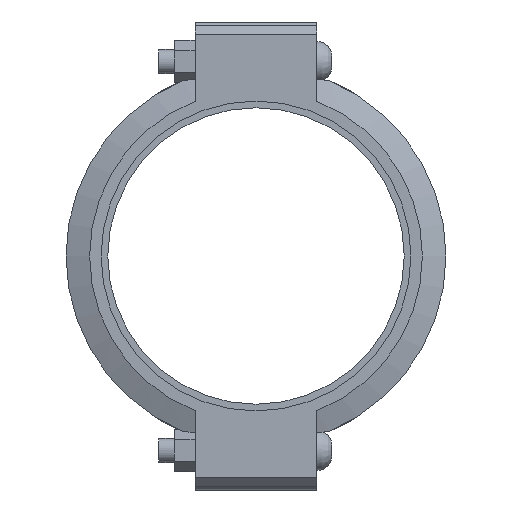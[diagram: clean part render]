
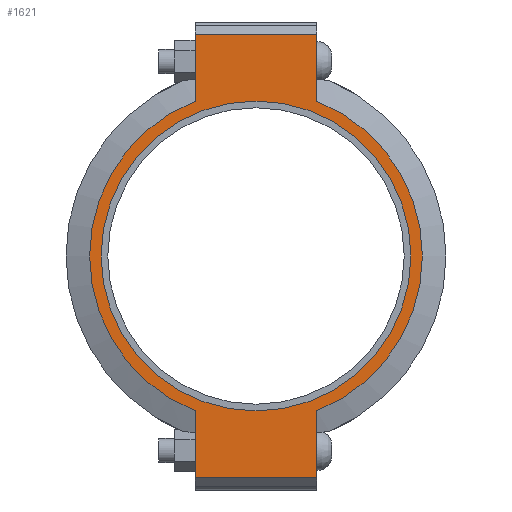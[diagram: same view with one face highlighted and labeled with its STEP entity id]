
A CAD part, left-side view. The second image highlights one B-rep face of the part: STEP entity #1621.
In plain terms, the highlighted planar face has unit normal (-1, 0, 0) as drawn and (0, 0, 1) by its records, which use the part's own axes.
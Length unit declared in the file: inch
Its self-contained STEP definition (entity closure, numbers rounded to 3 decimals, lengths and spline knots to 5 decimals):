
#192=LINE('',#2801,#281);
#203=LINE('',#2852,#292);
#209=LINE('',#2878,#298);
#211=LINE('',#2881,#300);
#212=LINE('',#2886,#301);
#213=LINE('',#2887,#302);
#281=VECTOR('',#2281,0.3937);
#292=VECTOR('',#2312,0.3937);
#298=VECTOR('',#2330,0.3937);
#300=VECTOR('',#2334,0.3937);
#301=VECTOR('',#2339,0.3937);
#302=VECTOR('',#2340,0.3937);
#364=FACE_BOUND('',#541,.T.);
#432=FACE_OUTER_BOUND('',#540,.T.);
#540=EDGE_LOOP('',(#1316,#1317,#1318,#1319,#1320,#1321,#1322,#1323));
#541=EDGE_LOOP('',(#1324));
#623=CIRCLE('',#1849,6.375);
#647=CIRCLE('',#1901,6.84375);
#648=CIRCLE('',#1902,6.84375);
#719=VERTEX_POINT('',#2627);
#760=VERTEX_POINT('',#2798);
#761=VERTEX_POINT('',#2800);
#778=VERTEX_POINT('',#2847);
#779=VERTEX_POINT('',#2851);
#786=VERTEX_POINT('',#2873);
#787=VERTEX_POINT('',#2877);
#788=VERTEX_POINT('',#2883);
#789=VERTEX_POINT('',#2885);
#883=EDGE_CURVE('',#719,#719,#623,.T.);
#940=EDGE_CURVE('',#761,#760,#192,.T.);
#961=EDGE_CURVE('',#779,#778,#203,.T.);
#972=EDGE_CURVE('',#787,#786,#209,.T.);
#974=EDGE_CURVE('',#787,#760,#211,.T.);
#975=EDGE_CURVE('',#786,#788,#647,.T.);
#976=EDGE_CURVE('',#788,#789,#212,.T.);
#977=EDGE_CURVE('',#779,#789,#213,.T.);
#978=EDGE_CURVE('',#778,#761,#648,.T.);
#1316=ORIENTED_EDGE('',*,*,#974,.F.);
#1317=ORIENTED_EDGE('',*,*,#972,.T.);
#1318=ORIENTED_EDGE('',*,*,#975,.T.);
#1319=ORIENTED_EDGE('',*,*,#976,.T.);
#1320=ORIENTED_EDGE('',*,*,#977,.F.);
#1321=ORIENTED_EDGE('',*,*,#961,.T.);
#1322=ORIENTED_EDGE('',*,*,#978,.T.);
#1323=ORIENTED_EDGE('',*,*,#940,.T.);
#1324=ORIENTED_EDGE('',*,*,#883,.T.);
#1461=PLANE('',#1900);
#1621=ADVANCED_FACE('',(#432,#364),#1461,.T.);
#1849=AXIS2_PLACEMENT_3D('',#2629,#2171,#2172);
#1900=AXIS2_PLACEMENT_3D('',#2882,#2335,#2336);
#1901=AXIS2_PLACEMENT_3D('',#2884,#2337,#2338);
#1902=AXIS2_PLACEMENT_3D('',#2888,#2341,#2342);
#2171=DIRECTION('center_axis',(0.,0.,-1.));
#2172=DIRECTION('ref_axis',(-1.,0.,0.));
#2281=DIRECTION('',(-1.,0.,0.));
#2312=DIRECTION('',(-1.,0.,0.));
#2330=DIRECTION('',(1.,0.,0.));
#2334=DIRECTION('',(0.,1.,0.));
#2335=DIRECTION('center_axis',(0.,0.,1.));
#2336=DIRECTION('ref_axis',(1.,0.,0.));
#2337=DIRECTION('center_axis',(0.,0.,1.));
#2338=DIRECTION('ref_axis',(-1.,0.,0.));
#2339=DIRECTION('',(1.,0.,0.));
#2340=DIRECTION('',(0.,-1.,0.));
#2341=DIRECTION('center_axis',(0.,0.,1.));
#2342=DIRECTION('ref_axis',(-1.,0.,0.));
#2627=CARTESIAN_POINT('',(6.375,0.,1.315));
#2629=CARTESIAN_POINT('Origin',(0.,0.,1.315));
#2798=CARTESIAN_POINT('',(-9.125,2.5,1.315));
#2800=CARTESIAN_POINT('',(-6.37079,2.5,1.315));
#2801=CARTESIAN_POINT('',(9.625,2.5,1.315));
#2847=CARTESIAN_POINT('',(6.37079,2.5,1.315));
#2851=CARTESIAN_POINT('',(9.125,2.5,1.315));
#2852=CARTESIAN_POINT('',(9.625,2.5,1.315));
#2873=CARTESIAN_POINT('',(-6.37079,-2.5,1.315));
#2877=CARTESIAN_POINT('',(-9.125,-2.5,1.315));
#2878=CARTESIAN_POINT('',(-9.625,-2.5,1.315));
#2881=CARTESIAN_POINT('',(-9.125,1.25,1.315));
#2882=CARTESIAN_POINT('Origin',(0.,0.,
1.315));
#2883=CARTESIAN_POINT('',(6.37079,-2.5,1.315));
#2884=CARTESIAN_POINT('Origin',(0.,0.,1.315));
#2885=CARTESIAN_POINT('',(9.125,-2.5,1.315));
#2886=CARTESIAN_POINT('',(-9.625,-2.5,1.315));
#2887=CARTESIAN_POINT('',(9.125,-1.25,1.315));
#2888=CARTESIAN_POINT('Origin',(0.,0.,1.315));
